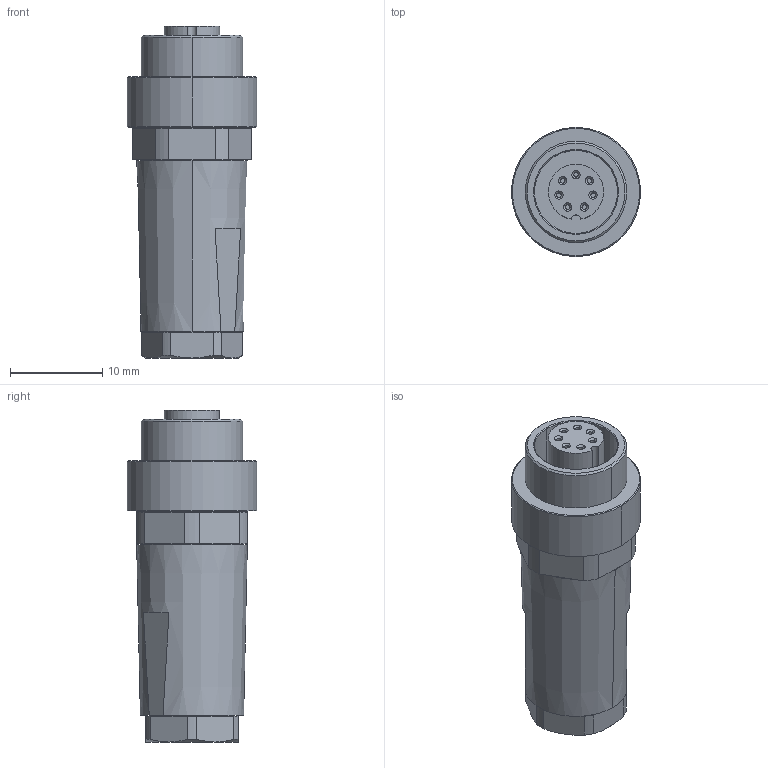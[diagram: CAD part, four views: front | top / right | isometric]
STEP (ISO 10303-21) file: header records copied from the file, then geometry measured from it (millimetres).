
FILE_DESCRIPTION(/* description */ (''),/* implementation_level */ '2;1');
FILE_NAME(/* name */ '507150_01.stp',/* time_stamp */ '2012-07-18T14:47:18+02:00',/* author */ (''),/* organization */ (''),/* preprocessor_version */ 'ST-DEVELOPER v11',/* originating_system */ 'UGS - NX 5.0',/* authorisation */ '');
FILE_SCHEMA (('AP203_CONFIGURATION_CONTROLLED_3D_DESIGN_OF_MECHANICAL_PARTS_AND_ASSEMBLIES_MIM_LF'));
Length unit declared in the file: millimetre
Products named in the file (1): 507150_01
Bounding box: 14 x 14 x 36 mm (x, y, z)
Volume: 3616.6 mm3; surface area: 2196.8 mm2
Topology: 1 solids, 1 shells, 121 faces, 275 edges, 174 vertices
Faces by surface type: cylinder 43, plane 42, cone 34, torus 2
Entity records: 3891 total; most frequent: CARTESIAN_POINT 627, DIRECTION 621, ORIENTED_EDGE 550, EDGE_CURVE 275, AXIS2_PLACEMENT_3D 252, VERTEX_POINT 174, EDGE_LOOP 139, CIRCLE 130
